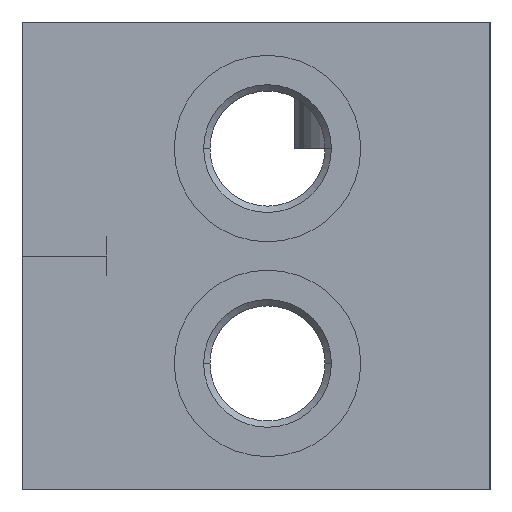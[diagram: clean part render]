
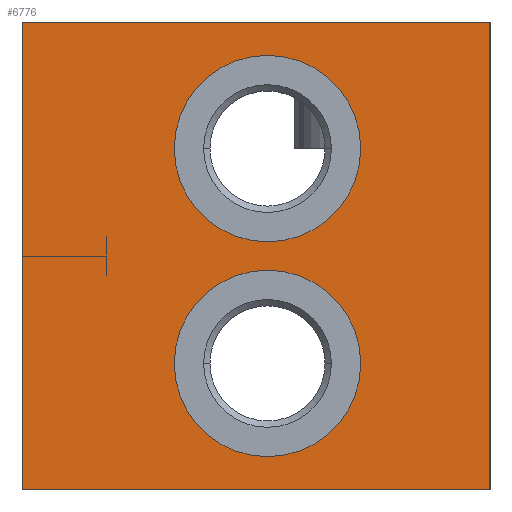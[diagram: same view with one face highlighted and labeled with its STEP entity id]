
A CAD part, left-side view. The second image highlights one B-rep face of the part: STEP entity #6776.
In plain terms, the highlighted planar face has unit normal (-1, 0, 0).
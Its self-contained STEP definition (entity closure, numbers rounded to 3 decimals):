
#25=DIRECTION('',(0.,-1.,0.));
#26=VECTOR('',#25,61.);
#27=CARTESIAN_POINT('',(0.,61.,0.));
#28=LINE('',#27,#26);
#177=DIRECTION('',(0.,0.,-1.));
#178=VECTOR('',#177,61.);
#179=CARTESIAN_POINT('',(0.,0.,0.));
#180=LINE('',#179,#178);
#1257=DIRECTION('',(0.,0.,-1.));
#1258=VECTOR('',#1257,61.);
#1259=CARTESIAN_POINT('',(0.,61.,0.));
#1260=LINE('',#1259,#1258);
#1261=CARTESIAN_POINT('',(0.,29.,-44.5));
#1262=DIRECTION('',(1.,0.,0.));
#1263=DIRECTION('',(0.,-1.,0.));
#1264=AXIS2_PLACEMENT_3D('',#1261,#1262,#1263);
#1266=CARTESIAN_POINT('',(0.,29.,-44.5));
#1267=DIRECTION('',(1.,0.,0.));
#1268=DIRECTION('',(0.,1.,0.));
#1269=AXIS2_PLACEMENT_3D('',#1266,#1267,#1268);
#1271=CARTESIAN_POINT('',(0.,29.,-16.5));
#1272=DIRECTION('',(1.,0.,0.));
#1273=DIRECTION('',(0.,-1.,0.));
#1274=AXIS2_PLACEMENT_3D('',#1271,#1272,#1273);
#1276=CARTESIAN_POINT('',(0.,29.,-16.5));
#1277=DIRECTION('',(1.,0.,0.));
#1278=DIRECTION('',(0.,1.,0.));
#1279=AXIS2_PLACEMENT_3D('',#1276,#1277,#1278);
#1293=DIRECTION('',(0.,-1.,0.));
#1294=VECTOR('',#1293,61.);
#1295=CARTESIAN_POINT('',(0.,61.,-61.));
#1296=LINE('',#1295,#1294);
#5235=CARTESIAN_POINT('',(0.,0.,0.));
#5237=VERTEX_POINT('',#5235);
#5241=CARTESIAN_POINT('',(0.,61.,0.));
#5242=VERTEX_POINT('',#5241);
#5243=CARTESIAN_POINT('',(0.,0.,-61.));
#5245=VERTEX_POINT('',#5243);
#5249=CARTESIAN_POINT('',(0.,61.,-61.));
#5250=VERTEX_POINT('',#5249);
#5263=CARTESIAN_POINT('',(0.,16.85,-44.5));
#5264=CARTESIAN_POINT('',(0.,41.15,-44.5));
#5265=VERTEX_POINT('',#5263);
#5266=VERTEX_POINT('',#5264);
#5279=CARTESIAN_POINT('',(0.,16.85,-16.5));
#5280=CARTESIAN_POINT('',(0.,41.15,-16.5));
#5281=VERTEX_POINT('',#5279);
#5282=VERTEX_POINT('',#5280);
#6752=CARTESIAN_POINT('',(0.,61.,0.));
#6753=DIRECTION('',(-1.,0.,0.));
#6754=DIRECTION('',(0.,-1.,0.));
#6755=AXIS2_PLACEMENT_3D('',#6752,#6753,#6754);
#6756=PLANE('',#6755);
#6757=ORIENTED_EDGE('',*,*,#6256,.T.);
#6758=ORIENTED_EDGE('',*,*,#6359,.T.);
#6760=ORIENTED_EDGE('',*,*,#6759,.F.);
#6761=ORIENTED_EDGE('',*,*,#6438,.F.);
#6762=EDGE_LOOP('',(#6757,#6758,#6760,#6761));
#6763=FACE_OUTER_BOUND('',#6762,.F.);
#6765=ORIENTED_EDGE('',*,*,#6764,.F.);
#6767=ORIENTED_EDGE('',*,*,#6766,.F.);
#6768=EDGE_LOOP('',(#6765,#6767));
#6769=FACE_BOUND('',#6768,.F.);
#6771=ORIENTED_EDGE('',*,*,#6770,.F.);
#6773=ORIENTED_EDGE('',*,*,#6772,.F.);
#6774=EDGE_LOOP('',(#6771,#6773));
#6775=FACE_BOUND('',#6774,.F.);
#1265=CIRCLE('',#1264,12.15);
#1270=CIRCLE('',#1269,12.15);
#1275=CIRCLE('',#1274,12.15);
#1280=CIRCLE('',#1279,12.15);
#6256=EDGE_CURVE('',#5242,#5237,#28,.T.);
#6359=EDGE_CURVE('',#5237,#5245,#180,.T.);
#6438=EDGE_CURVE('',#5242,#5250,#1260,.T.);
#6759=EDGE_CURVE('',#5250,#5245,#1296,.T.);
#6764=EDGE_CURVE('',#5265,#5266,#1265,.T.);
#6766=EDGE_CURVE('',#5266,#5265,#1270,.T.);
#6770=EDGE_CURVE('',#5281,#5282,#1275,.T.);
#6772=EDGE_CURVE('',#5282,#5281,#1280,.T.);
#6776=ADVANCED_FACE('',(#6763,#6769,#6775),#6756,.T.);
